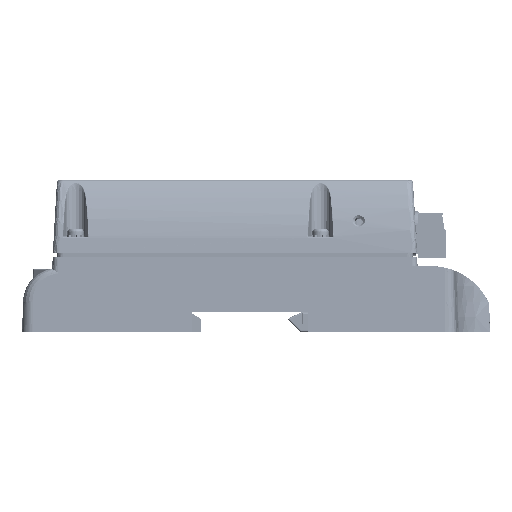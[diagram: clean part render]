
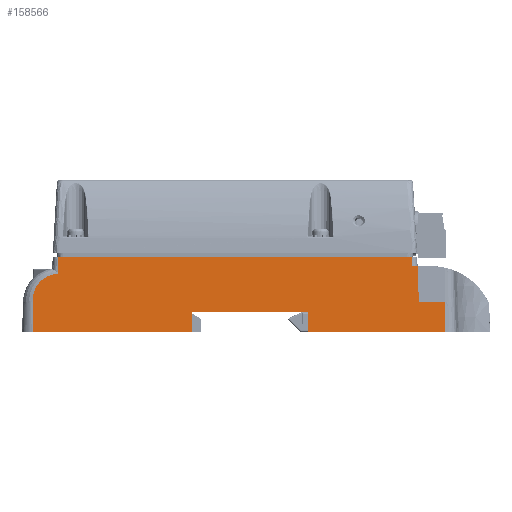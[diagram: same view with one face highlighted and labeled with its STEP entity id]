
A CAD part, left-side view. The second image highlights one B-rep face of the part: STEP entity #158566.
In plain terms, the highlighted planar face has unit normal (-0.999, 0, 0.035).
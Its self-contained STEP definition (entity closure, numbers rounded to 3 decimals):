
#13501=LINE('',#223649,#25240);
#13522=LINE('',#223705,#25261);
#13523=LINE('',#223707,#25262);
#13524=LINE('',#223709,#25263);
#13525=LINE('',#223710,#25264);
#13526=LINE('',#223720,#25265);
#13527=LINE('',#223722,#25266);
#13528=LINE('',#223724,#25267);
#13529=LINE('',#223726,#25268);
#13530=LINE('',#223728,#25269);
#13531=LINE('',#223730,#25270);
#13532=LINE('',#223732,#25271);
#13533=LINE('',#223734,#25272);
#25240=VECTOR('',#182532,1000.);
#25261=VECTOR('',#182569,1000.);
#25262=VECTOR('',#182572,1000.);
#25263=VECTOR('',#182573,1000.);
#25264=VECTOR('',#182574,1000.);
#25265=VECTOR('',#182575,1000.);
#25266=VECTOR('',#182576,1000.);
#25267=VECTOR('',#182577,1000.);
#25268=VECTOR('',#182578,1000.);
#25269=VECTOR('',#182579,1000.);
#25270=VECTOR('',#182580,1000.);
#25271=VECTOR('',#182581,1000.);
#25272=VECTOR('',#182582,1000.);
#37041=ORIENTED_EDGE('',*,*,#81639,.T.);
#37042=ORIENTED_EDGE('',*,*,#81640,.T.);
#37043=ORIENTED_EDGE('',*,*,#81638,.F.);
#37044=ORIENTED_EDGE('',*,*,#81641,.F.);
#37045=ORIENTED_EDGE('',*,*,#81642,.T.);
#37046=ORIENTED_EDGE('',*,*,#81643,.T.);
#37047=ORIENTED_EDGE('',*,*,#81644,.F.);
#37048=ORIENTED_EDGE('',*,*,#81645,.F.);
#37049=ORIENTED_EDGE('',*,*,#81646,.T.);
#37050=ORIENTED_EDGE('',*,*,#81647,.T.);
#37051=ORIENTED_EDGE('',*,*,#81648,.F.);
#37052=ORIENTED_EDGE('',*,*,#81649,.T.);
#37053=ORIENTED_EDGE('',*,*,#81650,.T.);
#37054=ORIENTED_EDGE('',*,*,#81610,.F.);
#81610=EDGE_CURVE('',#103907,#103908,#13501,.F.);
#81638=EDGE_CURVE('',#103934,#103919,#13522,.T.);
#81639=EDGE_CURVE('',#103907,#103935,#13523,.T.);
#81640=EDGE_CURVE('',#103935,#103919,#13524,.F.);
#81641=EDGE_CURVE('',#103936,#103934,#13525,.T.);
#81642=EDGE_CURVE('',#103936,#103937,#117579,.T.);
#81643=EDGE_CURVE('',#103937,#103938,#13526,.T.);
#81644=EDGE_CURVE('',#103939,#103938,#13527,.F.);
#81645=EDGE_CURVE('',#103940,#103939,#13528,.F.);
#81646=EDGE_CURVE('',#103940,#103941,#13529,.F.);
#81647=EDGE_CURVE('',#103941,#103942,#13530,.F.);
#81648=EDGE_CURVE('',#103943,#103942,#13531,.F.);
#81649=EDGE_CURVE('',#103943,#103944,#13532,.F.);
#81650=EDGE_CURVE('',#103944,#103908,#13533,.F.);
#103907=VERTEX_POINT('',#223648);
#103908=VERTEX_POINT('',#223650);
#103919=VERTEX_POINT('',#223674);
#103934=VERTEX_POINT('',#223704);
#103935=VERTEX_POINT('',#223708);
#103936=VERTEX_POINT('',#223711);
#103937=VERTEX_POINT('',#223719);
#103938=VERTEX_POINT('',#223721);
#103939=VERTEX_POINT('',#223723);
#103940=VERTEX_POINT('',#223725);
#103941=VERTEX_POINT('',#223727);
#103942=VERTEX_POINT('',#223729);
#103943=VERTEX_POINT('',#223731);
#103944=VERTEX_POINT('',#223733);
#117579=B_SPLINE_CURVE_WITH_KNOTS('',3,(#223712,#223713,#223714,#223715,
#223716,#223717,#223718),.UNSPECIFIED.,.F.,.F.,(4,1,1,1,4),(0.,0.25,
0.5,0.75,1.),.UNSPECIFIED.);
#120642=EDGE_LOOP('',(#37041,#37042,#37043,#37044,#37045,#37046,#37047,
#37048,#37049,#37050,#37051,#37052,#37053,#37054));
#130361=FACE_BOUND('',#120642,.T.);
#140079=PLANE('',#167789);
#158566=ADVANCED_FACE('',(#130361),#140079,.T.);
#167789=AXIS2_PLACEMENT_3D('',#223706,#182570,#182571);
#182532=DIRECTION('',(0.035,0.035,0.999));
#182569=DIRECTION('',(0.,-1.,0.));
#182570=DIRECTION('',(-0.999,0.,0.035));
#182571=DIRECTION('',(0.035,0.,0.999));
#182572=DIRECTION('',(0.,1.,0.));
#182573=DIRECTION('',(-0.035,0.,-0.999));
#182574=DIRECTION('',(0.035,0.,0.999));
#182575=DIRECTION('',(-0.035,0.,-0.999));
#182576=DIRECTION('',(0.,-1.,0.));
#182577=DIRECTION('',(0.035,0.,0.999));
#182578=DIRECTION('',(0.,1.,0.));
#182579=DIRECTION('',(0.035,0.,0.999));
#182580=DIRECTION('',(0.,-1.,0.));
#182581=DIRECTION('',(-0.035,0.,-0.999));
#182582=DIRECTION('',(0.,-1.,0.));
#223648=CARTESIAN_POINT('',(-88.616,-57.616,14.526));
#223649=CARTESIAN_POINT('',(-89.048,-58.048,2.137));
#223650=CARTESIAN_POINT('',(-89.034,-58.034,2.54));
#223674=CARTESIAN_POINT('',(-88.511,-55.611,17.526));
#223704=CARTESIAN_POINT('',(-88.511,61.407,17.526));
#223705=CARTESIAN_POINT('',(-88.511,121.184,17.526));
#223706=CARTESIAN_POINT('',(-88.511,-57.003,17.526));
#223707=CARTESIAN_POINT('',(-88.616,-57.003,14.526));
#223708=CARTESIAN_POINT('',(-88.616,-55.611,14.526));
#223709=CARTESIAN_POINT('',(-86.611,-55.611,71.935));
#223710=CARTESIAN_POINT('',(-88.511,61.407,17.526));
#223711=CARTESIAN_POINT('',(-88.702,61.407,12.06));
#223712=CARTESIAN_POINT('',(-88.702,61.407,12.06));
#223713=CARTESIAN_POINT('',(-88.704,62.688,11.997));
#223714=CARTESIAN_POINT('',(-88.727,65.19,11.341));
#223715=CARTESIAN_POINT('',(-88.808,68.108,9.034));
#223716=CARTESIAN_POINT('',(-88.918,69.782,5.875));
#223717=CARTESIAN_POINT('',(-88.996,69.953,3.628));
#223718=CARTESIAN_POINT('',(-89.034,69.813,2.54));
#223719=CARTESIAN_POINT('',(-89.034,69.813,2.54));
#223720=CARTESIAN_POINT('',(-89.034,69.814,2.54));
#223721=CARTESIAN_POINT('',(-89.378,69.814,-7.3));
#223722=CARTESIAN_POINT('',(-89.378,-69.592,-7.3));
#223723=CARTESIAN_POINT('',(-89.378,17.27,-7.3));
#223724=CARTESIAN_POINT('',(-89.034,17.27,2.54));
#223725=CARTESIAN_POINT('',(-89.14,17.27,-0.5));
#223726=CARTESIAN_POINT('',(-89.14,-69.592,-0.5));
#223727=CARTESIAN_POINT('',(-89.14,-21.28,-0.5));
#223728=CARTESIAN_POINT('',(-89.14,-21.28,-0.496));
#223729=CARTESIAN_POINT('',(-89.378,-21.28,-7.3));
#223730=CARTESIAN_POINT('',(-89.378,-69.592,-7.3));
#223731=CARTESIAN_POINT('',(-89.378,-66.85,-7.3));
#223732=CARTESIAN_POINT('',(-89.034,-66.85,2.54));
#223733=CARTESIAN_POINT('',(-89.034,-66.85,2.54));
#223734=CARTESIAN_POINT('',(-89.034,-69.592,2.54));
